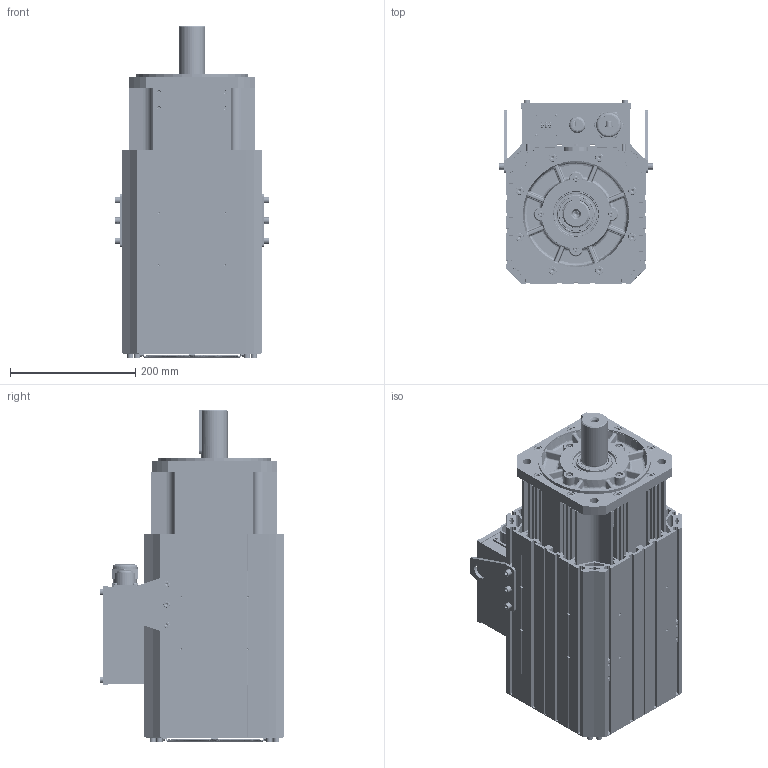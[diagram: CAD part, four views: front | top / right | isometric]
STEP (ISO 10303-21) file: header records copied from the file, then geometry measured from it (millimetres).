
FILE_DESCRIPTION (( 'STEP AP214' ), '1' );
FILE_NAME ('VM7-M20D-01515-D1FNH.STEP', '2022-04-02T01:44:07', ( '' ), ( '' ), 'SwSTEP 2.0', 'SolidWorks 2014', '' );
FILE_SCHEMA (( 'AUTOMOTIVE_DESIGN' ));
Length unit declared in the file: millimetre
Products named in the file (3): 翋极ㄗVM7-M20Dㄘ; VM7-M20D-01515-D1FNH; 俋褲ㄗVM7-M20Dㄘ
Assembly tree (2 placements, depth 2):
  VM7-M20D-01515-D1FNH
    翋极ㄗVM7-M20Dㄘ
    俋褲ㄗVM7-M20Dㄘ
Bounding box: 246.2 x 294.7 x 530 mm (x, y, z)
Volume: 2134379.2 mm3; surface area: 2394986.5 mm2
Topology: 45 solids, 183 shells, 5660 faces, 14472 edges, 9117 vertices
Faces by surface type: plane 3221, cylinder 1323, cone 587, bspline 529
Entity records: 187119 total; most frequent: CARTESIAN_POINT 50233, ORIENTED_EDGE 28442, DIRECTION 27688, EDGE_CURVE 14230, AXIS2_PLACEMENT_3D 9527, VERTEX_POINT 9117, LINE 8634, VECTOR 8634
